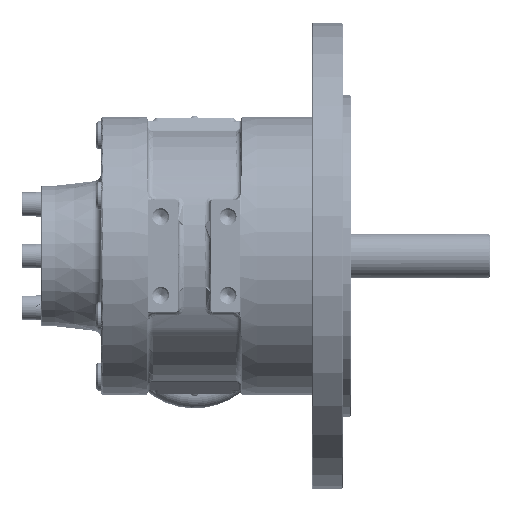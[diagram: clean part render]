
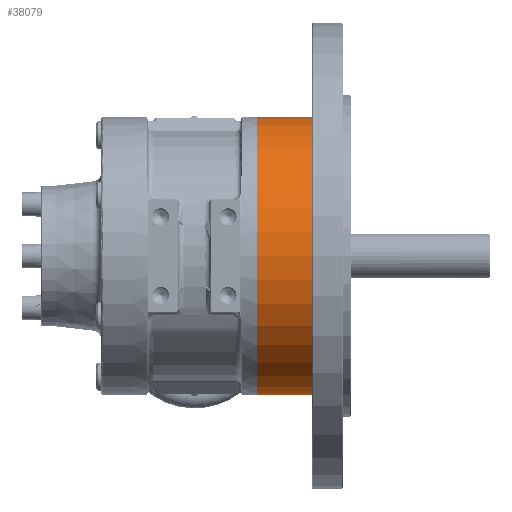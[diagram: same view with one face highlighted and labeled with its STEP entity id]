
A CAD part, front view. The second image highlights one B-rep face of the part: STEP entity #38079.
In plain terms, the highlighted cylindrical face has radius 49.5 mm (diameter 99 mm), a partial arc.
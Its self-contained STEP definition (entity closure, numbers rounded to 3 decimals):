
#2400 = CARTESIAN_POINT ( 'NONE',  ( -43.287, 0., -49.5 ) ) ;
#2599 = CIRCLE ( 'NONE', #199254, 49.5 ) ;
#18609 = DIRECTION ( 'NONE',  ( -1., 0., 0. ) ) ;
#25733 = DIRECTION ( 'NONE',  ( -1., 0., 0. ) ) ;
#30837 = AXIS2_PLACEMENT_3D ( 'NONE', #61214, #18609, #250638 ) ;
#34963 = DIRECTION ( 'NONE',  ( -1., 0., 0. ) ) ;
#38079 = ADVANCED_FACE ( 'NONE', ( #130274 ), #108300, .T. ) ;
#41198 = LINE ( 'NONE', #52296, #229529 ) ;
#41449 = VERTEX_POINT ( 'NONE', #224918 ) ;
#44000 = DIRECTION ( 'NONE',  ( 0., -1., 0. ) ) ;
#52296 = CARTESIAN_POINT ( 'NONE',  ( -43.287, 0., 49.5 ) ) ;
#56973 = ORIENTED_EDGE ( 'NONE', *, *, #240353, .T. ) ;
#61214 = CARTESIAN_POINT ( 'NONE',  ( -43.287, 0., 0. ) ) ;
#68623 = CARTESIAN_POINT ( 'NONE',  ( 22.28, 0., 49.5 ) ) ;
#86194 = EDGE_LOOP ( 'NONE', ( #211959, #56973, #214587, #152570 ) ) ;
#97717 = VERTEX_POINT ( 'NONE', #68623 ) ;
#108300 = CYLINDRICAL_SURFACE ( 'NONE', #30837, 49.5 ) ;
#129387 = VERTEX_POINT ( 'NONE', #246370 ) ;
#130274 = FACE_OUTER_BOUND ( 'NONE', #86194, .T. ) ;
#137337 = EDGE_CURVE ( 'NONE', #129387, #271634, #228977, .T. ) ;
#152570 = ORIENTED_EDGE ( 'NONE', *, *, #137337, .F. ) ;
#161304 = DIRECTION ( 'NONE',  ( 1., 0., 0. ) ) ;
#162324 = CARTESIAN_POINT ( 'NONE',  ( 41.73, 0., 0. ) ) ;
#167303 = VECTOR ( 'NONE', #25733, 1000. ) ;
#199254 = AXIS2_PLACEMENT_3D ( 'NONE', #162324, #161304, #44000 ) ;
#205984 = EDGE_CURVE ( 'NONE', #271634, #97717, #244720, .T. ) ;
#211959 = ORIENTED_EDGE ( 'NONE', *, *, #270601, .F. ) ;
#214333 = DIRECTION ( 'NONE',  ( -1., 0., 0. ) ) ;
#214587 = ORIENTED_EDGE ( 'NONE', *, *, #205984, .F. ) ;
#221032 = CARTESIAN_POINT ( 'NONE',  ( 22.28, 0., -49.5 ) ) ;
#224918 = CARTESIAN_POINT ( 'NONE',  ( 41.73, 0., 49.5 ) ) ;
#228977 = LINE ( 'NONE', #2400, #167303 ) ;
#229529 = VECTOR ( 'NONE', #214333, 1000. ) ;
#240353 = EDGE_CURVE ( 'NONE', #41449, #97717, #41198, .T. ) ;
#243618 = CARTESIAN_POINT ( 'NONE',  ( 22.28, 0., 0. ) ) ;
#244720 = CIRCLE ( 'NONE', #299665, 49.5 ) ;
#246370 = CARTESIAN_POINT ( 'NONE',  ( 41.73, 0., -49.5 ) ) ;
#250638 = DIRECTION ( 'NONE',  ( 0., 0., -1. ) ) ;
#270601 = EDGE_CURVE ( 'NONE', #41449, #129387, #2599, .T. ) ;
#271634 = VERTEX_POINT ( 'NONE', #221032 ) ;
#286303 = DIRECTION ( 'NONE',  ( 0., 1., 0. ) ) ;
#299665 = AXIS2_PLACEMENT_3D ( 'NONE', #243618, #34963, #286303 ) ;
